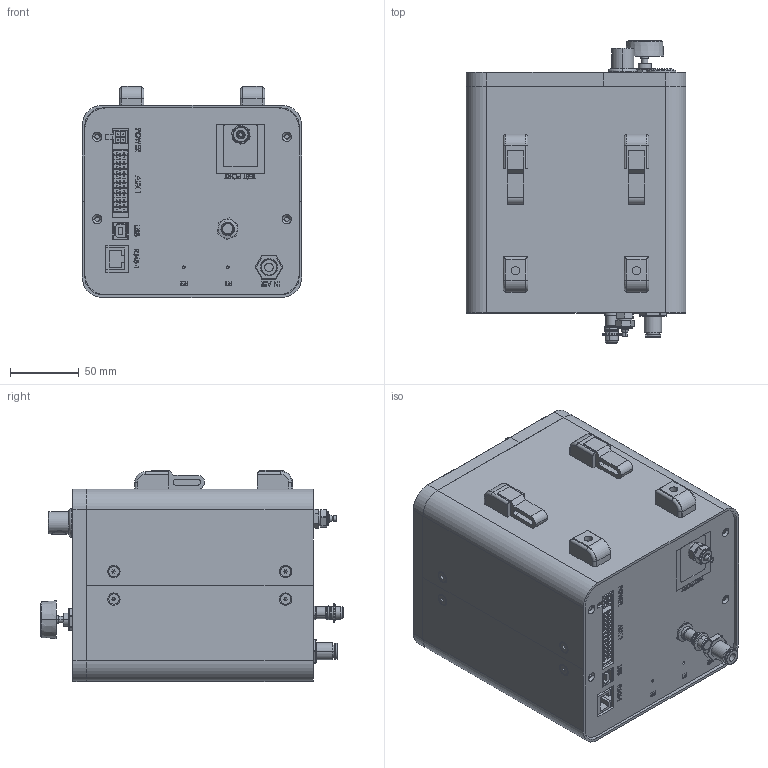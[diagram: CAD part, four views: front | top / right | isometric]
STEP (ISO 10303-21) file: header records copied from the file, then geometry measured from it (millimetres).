
FILE_DESCRIPTION (( 'STEP AP214' ), '1' );
FILE_NAME ('K5 SERIES.STEP', '2025-08-01T14:10:03', ( '' ), ( '' ), 'SwSTEP 2.0', 'SolidWorks 2024', '' );
FILE_SCHEMA (( 'AUTOMOTIVE_DESIGN' ));
Length unit declared in the file: millimetre
Products named in the file (26): Ingresso frontale; Frontale dx K5; USB; Scocca K5; Manopola frontale K5; Frontale sx K5; Porta di test; Presa aria innesto rapido; Presa usb M8000; Piedino posteriore; riga ottica K5; Piedino anteriore; Frontale K5 completo; Display K5; Connettore a 4; Presa di rete M8000; Porta a calzamento ; Retro K5; socket countersunk head screw_iso_ISO 10642 - M4 x 8 - 8N; Regolatore K7; onnettore posteriore; K5 SERIES; Retro K5 completo; Tasto K7; modulo display
Assembly tree (48 placements, depth 4):
  K5 SERIES
    Frontale K5 completo
      Frontale sx K5
      Frontale dx K5
      Tasto K7
      Ingresso frontale
      Presa usb M8000
      Manopola frontale K5
      Display K5
      riga ottica K5
        modulo display  x14
    Scocca K5  x2
    socket countersunk head screw_iso_ISO 10642 - M4 x 8 - 8N  x8
    Retro K5 completo
      Retro K5
      Presa aria innesto rapido
      Presa di rete M8000
      USB
      onnettore posteriore
      Connettore a 4
      Regolatore K7
      Porta di test
        Porta di test
        Porta a calzamento 
    Piedino posteriore  x2
    Piedino anteriore  x2
Bounding box: 160 x 220.25 x 153.6 mm (x, y, z)
Volume: 542294.1 mm3; surface area: 374415.8 mm2
Topology: 44 solids, 44 shells, 3406 faces, 9139 edges, 5937 vertices
Faces by surface type: plane 2110, cylinder 805, bspline 277, cone 129, torus 44, sphere 41
Entity records: 111447 total; most frequent: CARTESIAN_POINT 34205, ORIENTED_EDGE 16512, DIRECTION 14920, EDGE_CURVE 8256, VECTOR 5990, LINE 5990, VERTEX_POINT 5422, AXIS2_PLACEMENT_3D 4465
